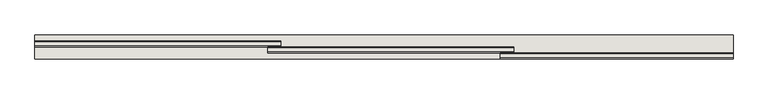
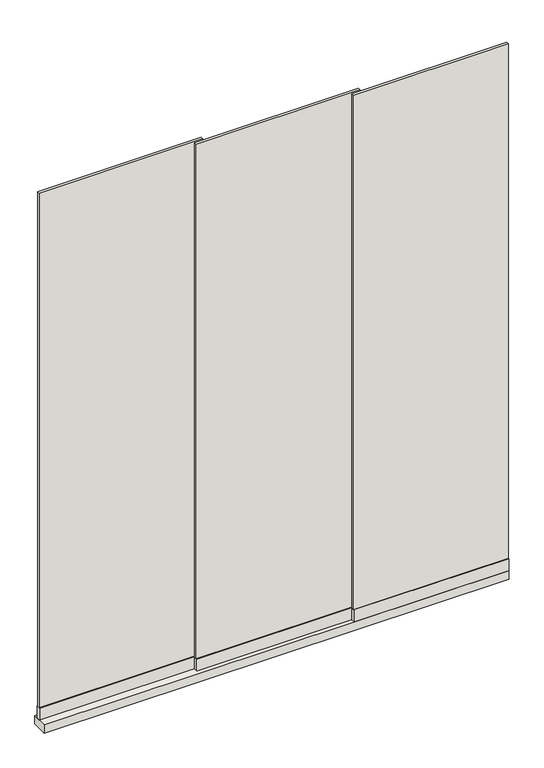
"""IFC4 building model written with IfcOpenShell, lengths in millimetres: wall geometry, Renson_Amani_Glass_Sliding_Panel : Renson_Amani_Glass_Sliding_Panel."""

import ifcopenshell
import ifcopenshell.guid

model = None  # the IFC model being written
_history = None  # IfcOwnerHistory: only IFC2X3 demands one
_inside = {}  # id of a spatial element -> (the spatial element, [elements in it])
_under = {}  # id of a project, library or spatial element -> (it, [spatial elements below it])
_declared = {}  # id of a project -> (the project, [libraries it declares])
_typed = {}  # id of a type object -> (the type object, [elements of that type])
_made_of = {}  # id of a material, layer set ... -> (it, [elements and type objects made of it])


def new_model(schema):
    """Start an empty IFC model of exactly this schema.

    Asked for "IFC4X3", IfcOpenShell would pick the latest addendum, in which some entities
    have other attributes; the version numbers below select the first issue.
    IFC2X3 requires an IfcOwnerHistory on every rooted entity: one is made here for all.
    """
    global model, _history
    if schema == "IFC4X3":
        model = ifcopenshell.file(schema_version=(4, 3, 0, 0))
    else:
        model = ifcopenshell.file(schema=schema)
    _inside.clear()
    _under.clear()
    _declared.clear()
    _typed.clear()
    _made_of.clear()
    _history = None
    if model.schema == "IFC2X3":
        org = make("IfcOrganization", Name="unknown")
        user = make(
            "IfcPersonAndOrganization",
            ThePerson=make("IfcPerson", FamilyName="unknown"),
            TheOrganization=org,
        )
        app = make(
            "IfcApplication",
            ApplicationDeveloper=org,
            Version="unknown",
            ApplicationFullName="unknown",
            ApplicationIdentifier="unknown",
        )
        _history = make(
            "IfcOwnerHistory",
            OwningUser=user,
            OwningApplication=app,
            ChangeAction="ADDED",
            CreationDate=0,
        )
    return model


def make(cls, **values):
    """One entity of the class cls with the attributes given. An attribute that is None is left unset."""
    return model.create_entity(
        cls, **{name: value for name, value in values.items() if value is not None}
    )


def rooted(cls, **values):
    """An entity with a GlobalId (a new one), such as an element, a storey or a relation."""
    return make(cls, GlobalId=ifcopenshell.guid.new(), OwnerHistory=_history, **values)


def si_unit(unit_type, name, prefix=None):
    """IfcSIUnit, for example si_unit("LENGTHUNIT", "METRE", prefix="MILLI")."""
    return make("IfcSIUnit", UnitType=unit_type, Prefix=prefix, Name=name)


def assignment(units):
    """IfcUnitAssignment: the units of a project."""
    return None if units is None else make("IfcUnitAssignment", Units=units)


def point(xyz):
    """IfcCartesianPoint."""
    return None if xyz is None else make("IfcCartesianPoint", Coordinates=xyz)


def direction(xyz):
    """IfcDirection."""
    return None if xyz is None else make("IfcDirection", DirectionRatios=xyz)


def frame(location, z_axis=None, x_axis=None):
    """IfcAxis2Placement3D, a coordinate frame: its origin and axes. An axis left out is left unset."""
    return make(
        "IfcAxis2Placement3D",
        Location=point(location),
        Axis=direction(z_axis),
        RefDirection=direction(x_axis),
    )


def origin():
    """The frame at (0, 0, 0) with its axes left unset."""
    return frame((0.0, 0.0, 0.0))


def origin_with_axes():
    """The frame at (0, 0, 0) with the z axis (0, 0, 1) and the x axis (1, 0, 0) written out."""
    return frame((0.0, 0.0, 0.0), z_axis=(0.0, 0.0, 1.0), x_axis=(1.0, 0.0, 0.0))


def place(relative_to, where):
    """IfcLocalPlacement: puts the frame where relative to a parent placement (None: the world)."""
    return make(
        "IfcLocalPlacement", PlacementRelTo=relative_to, RelativePlacement=where
    )


def context(
    kind, dimensions, precision=None, world=None, true_north=None, identifier=None
):
    """IfcGeometricRepresentationContext, for example the 3D "Model" context."""
    return make(
        "IfcGeometricRepresentationContext",
        ContextIdentifier=identifier,
        ContextType=kind,
        CoordinateSpaceDimension=dimensions,
        Precision=precision,
        WorldCoordinateSystem=world,
        TrueNorth=true_north,
    )


def project(units=None, contexts=None):
    """IfcProject with its units and contexts."""
    return rooted(
        "IfcProject",
        Name="project",
        RepresentationContexts=contexts,
        UnitsInContext=assignment(units),
    )


def spatial(cls, under=None, at=None, **own):
    """A site, building, storey or space (cls), placed at a placement, below another one or the project."""
    s = rooted(cls, ObjectPlacement=at, **own)
    if under is not None:
        _under.setdefault(under.id(), (under, []))[1].append(s)
    return s


def polyline(points):
    """IfcPolyline through the points."""
    return make("IfcPolyline", Points=[point(p) for p in points])


def outline(outer, holes=None, kind="AREA"):
    """IfcArbitraryClosedProfileDef: a profile drawn as a closed curve; with holes, ...WithVoids."""
    if holes is None:
        return make("IfcArbitraryClosedProfileDef", ProfileType=kind, OuterCurve=outer)
    return make(
        "IfcArbitraryProfileDefWithVoids",
        ProfileType=kind,
        OuterCurve=outer,
        InnerCurves=holes,
    )


def extrude(swept, where, along, depth):
    """IfcExtrudedAreaSolid: the profile swept, set in the frame where, extruded along a direction by depth."""
    return make(
        "IfcExtrudedAreaSolid",
        SweptArea=swept,
        Position=where,
        ExtrudedDirection=direction(along),
        Depth=depth,
    )


def shape(context_of_items, identifier, shape_type, items):
    """IfcShapeRepresentation: the items that make up one representation, for example the "Body"."""
    return make(
        "IfcShapeRepresentation",
        ContextOfItems=context_of_items,
        RepresentationIdentifier=identifier,
        RepresentationType=shape_type,
        Items=items,
    )


def source(mapping_origin, context_of_items, identifier, shape_type, items):
    """IfcRepresentationMap: a shape defined once, which mapped items show again and again."""
    return make(
        "IfcRepresentationMap",
        MappingOrigin=mapping_origin,
        MappedRepresentation=shape(context_of_items, identifier, shape_type, items),
    )


def transform(
    local_origin,
    x_axis=None,
    y_axis=None,
    z_axis=None,
    scale=None,
    scale2=None,
    scale3=None,
    uniform=True,
):
    """IfcCartesianTransformationOperator3D, or its non-uniform kind. x_axis, y_axis, z_axis: its Axis1, 2, 3."""
    if uniform:
        return make(
            "IfcCartesianTransformationOperator3D",
            Axis1=direction(x_axis),
            Axis2=direction(y_axis),
            LocalOrigin=point(local_origin),
            Scale=scale,
            Axis3=direction(z_axis),
        )
    return make(
        "IfcCartesianTransformationOperator3DnonUniform",
        Axis1=direction(x_axis),
        Axis2=direction(y_axis),
        LocalOrigin=point(local_origin),
        Scale=scale,
        Axis3=direction(z_axis),
        Scale2=scale2,
        Scale3=scale3,
    )


def mapped(mapping_source, mapping_target):
    """IfcMappedItem: shows the shape of a source again, moved by a transform."""
    return make(
        "IfcMappedItem", MappingSource=mapping_source, MappingTarget=mapping_target
    )


def made_of(thing, what):
    """Note that an element or type object is made of a material, layer set ...; save() writes the relation."""
    if what is not None:
        _made_of.setdefault(what.id(), (what, []))[1].append(thing)
    return thing


def element(
    cls,
    number,
    at=None,
    inside=None,
    cuts=None,
    type_object=None,
    material=None,
    context=None,
    identifier="Body",
    shape_type=None,
    held_by="IfcProductDefinitionShape",
    body=None,
    shapes=None,
    **own,
):
    """One element of the class cls, such as IfcWall. Its Tag is "e" and its number.

    at: its placement. inside: the storey or other place that contains it. cuts: it is an
    opening in that element (IfcRelVoidsElement). A single representation is given by context,
    identifier, shape_type and body (its items); several are given by shapes. held_by: the class
    of the entity that holds the representations. save() writes the other relations.
    """
    e = rooted(cls, Tag="e%d" % number, ObjectPlacement=at, **own)
    if body is not None:
        shapes = [shape(context, identifier, shape_type, body)]
    if shapes is not None:
        e.Representation = make(held_by, Representations=shapes)
    if inside is not None:
        _inside.setdefault(inside.id(), (inside, []))[1].append(e)
    if cuts is not None:
        rooted(
            "IfcRelVoidsElement", RelatingBuildingElement=cuts, RelatedOpeningElement=e
        )
    if type_object is not None:
        _typed.setdefault(type_object.id(), (type_object, []))[1].append(e)
    return made_of(e, material)


def aggregate(whole, parts):
    """IfcRelAggregates: a whole, such as a stair, and the parts it consists of."""
    return rooted("IfcRelAggregates", RelatingObject=whole, RelatedObjects=parts)


def save(model, path):
    """Write the relations noted so far, then the file.

    IfcRelAggregates (storeys below a building ...), IfcRelContainedInSpatialStructure (elements
    in a storey), IfcRelDefinesByType, IfcRelAssociatesMaterial and IfcRelDeclares: one each for
    every whole, place, type object, material and project.
    """
    for whole, parts in _under.values():
        aggregate(whole, parts)
    for where, things in _inside.values():
        rooted(
            "IfcRelContainedInSpatialStructure",
            RelatedElements=things,
            RelatingStructure=where,
        )
    for kind, things in _typed.values():
        rooted("IfcRelDefinesByType", RelatedObjects=things, RelatingType=kind)
    for what, things in _made_of.values():
        rooted("IfcRelAssociatesMaterial", RelatedObjects=things, RelatingMaterial=what)
    for by, libraries in _declared.values():
        rooted("IfcRelDeclares", RelatingContext=by, RelatedDefinitions=libraries)
    model.write(path)


def wall_dde1c0c2(model_context):
    return source(origin(), model_context, "Body", "SweptSolid", [
        extrude(outline(polyline([(750.0, 0.0), (-1100.0, 0.0), (-1100.0, 64.0), (750.0, 64.0), (750.0, 0.0)])), origin_with_axes(), (0.0, 0.0, 1.0), 35.0),
        extrude(outline(polyline([(750.0, 3.0), (133.3333333, 3.0), (133.3333333, 13.0), (750.0, 13.0), (750.0, 3.0)])), frame((0.0, 0.0, 86.0), z_axis=(0.0, 0.0, 1.0), x_axis=(1.0, 0.0, 0.0)), (0.0, 0.0, 1.0), 2164.0),
        extrude(outline(polyline([(168.3333333, 19.0), (-483.3333333, 19.0), (-483.3333333, 29.0), (168.3333333, 29.0), (168.3333333, 19.0)])), frame((0.0, 0.0, 86.0), z_axis=(0.0, 0.0, 1.0), x_axis=(1.0, 0.0, 0.0)), (0.0, 0.0, 1.0), 2164.0),
        extrude(outline(polyline([(-448.3333333, 35.0), (-1100.0, 35.0), (-1100.0, 45.0), (-448.3333333, 45.0), (-448.3333333, 35.0)])), frame((0.0, 0.0, 86.0), z_axis=(0.0, 0.0, 1.0), x_axis=(1.0, 0.0, 0.0)), (0.0, 0.0, 1.0), 2164.0),
        extrude(outline(polyline([(750.0, 0.0), (133.3333333, 0.0), (133.3333333, 16.0), (750.0, 16.0), (750.0, 0.0)])), frame((0.0, 0.0, 35.0), z_axis=(0.0, 0.0, 1.0), x_axis=(1.0, 0.0, 0.0)), (0.0, 0.0, 1.0), 51.0),
        extrude(outline(polyline([(168.3333333, 16.0), (-483.3333333, 16.0), (-483.3333333, 32.0), (168.3333333, 32.0), (168.3333333, 16.0)])), frame((0.0, 0.0, 35.0), z_axis=(0.0, 0.0, 1.0), x_axis=(1.0, 0.0, 0.0)), (0.0, 0.0, 1.0), 51.0),
        extrude(outline(polyline([(-448.3333333, 32.0), (-1100.0, 32.0), (-1100.0, 48.0), (-448.3333333, 48.0), (-448.3333333, 32.0)])), frame((0.0, 0.0, 35.0), z_axis=(0.0, 0.0, 1.0), x_axis=(1.0, 0.0, 0.0)), (0.0, 0.0, 1.0), 51.0),
    ])


if __name__ == "__main__":
    model = new_model("IFC4")
    model_context = context("Model", 3, world=origin())
    ifc_project = project(units=[si_unit("LENGTHUNIT", "METRE", prefix="MILLI")], contexts=[model_context])
    site = spatial("IfcSite", under=ifc_project)
    building = spatial("IfcBuilding", under=site)
    placement = place(None, origin())
    wall_shape = wall_dde1c0c2(model_context)
    element("IfcWall", 1, ObjectType="Renson_Amani_Glass_Sliding_Panel : Renson_Amani_Glass_Sliding_Panel", at=placement, inside=building, context=model_context, shape_type="MappedRepresentation", body=[
        mapped(wall_shape, transform((0.0, 0.0, 0.0), x_axis=(1.0, 0.0, 0.0), y_axis=(0.0, 1.0, 0.0), z_axis=(0.0, 0.0, 1.0))),
    ])
    save(model, "model.ifc")
